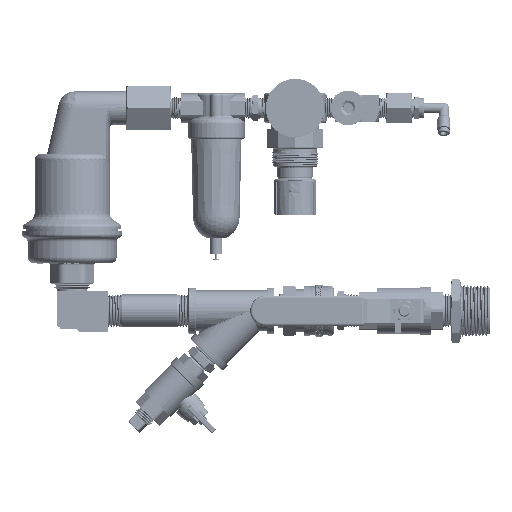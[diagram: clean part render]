
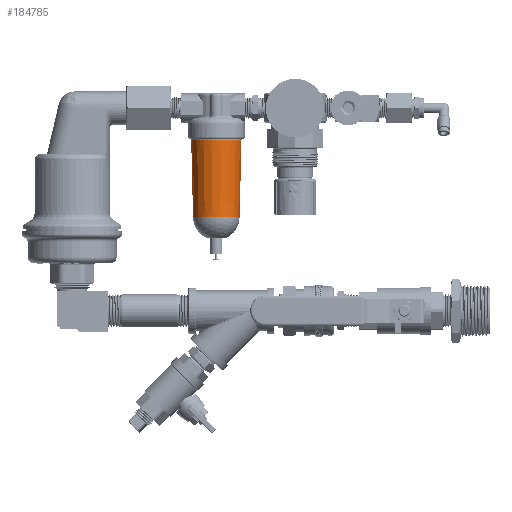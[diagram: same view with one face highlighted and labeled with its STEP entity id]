
A CAD part, top view. The second image highlights one B-rep face of the part: STEP entity #184785.
In plain terms, the highlighted conical face has half-angle 1.387 degrees and reference radius 16.32 mm.
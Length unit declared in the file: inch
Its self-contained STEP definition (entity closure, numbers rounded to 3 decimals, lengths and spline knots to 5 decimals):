
#21802=FACE_OUTER_BOUND('',#33109,.T.);
#33109=EDGE_LOOP('',(#132966,#132967,#132968,#132969,#132970));
#42530=CIRCLE('',#198870,0.59483);
#42534=CIRCLE('',#198878,0.6425);
#42536=CIRCLE('',#198881,0.59483);
#50109=LINE('',#331773,#64939);
#50110=LINE('',#331777,#64940);
#64939=VECTOR('',#230792,39.37008);
#64940=VECTOR('',#230795,39.37008);
#80038=VERTEX_POINT('',#331764);
#80040=VERTEX_POINT('',#331768);
#80041=VERTEX_POINT('',#331772);
#80042=VERTEX_POINT('',#331774);
#80043=VERTEX_POINT('',#331776);
#98450=EDGE_CURVE('',#80038,#80040,#42530,.T.);
#98451=EDGE_CURVE('',#80040,#80041,#50109,.T.);
#98453=EDGE_CURVE('',#80042,#80043,#50110,.T.);
#98460=EDGE_CURVE('',#80043,#80041,#42534,.T.);
#98462=EDGE_CURVE('',#80042,#80038,#42536,.T.);
#132966=ORIENTED_EDGE('',*,*,#98462,.T.);
#132967=ORIENTED_EDGE('',*,*,#98450,.T.);
#132968=ORIENTED_EDGE('',*,*,#98451,.T.);
#132969=ORIENTED_EDGE('',*,*,#98460,.F.);
#132970=ORIENTED_EDGE('',*,*,#98453,.F.);
#169931=CONICAL_SURFACE('',#198880,0.6425,0.024);
#184785=ADVANCED_FACE('',(#21802),#169931,.T.);
#198870=AXIS2_PLACEMENT_3D('',#331770,#230788,#230789);
#198878=AXIS2_PLACEMENT_3D('',#331789,#230810,#230811);
#198880=AXIS2_PLACEMENT_3D('',#331791,#230814,#230815);
#198881=AXIS2_PLACEMENT_3D('',#331792,#230816,#230817);
#230788=DIRECTION('center_axis',(0.,1.,0.));
#230789=DIRECTION('ref_axis',(-1.,0.,0.));
#230792=DIRECTION('',(0.024,1.,0.));
#230795=DIRECTION('',(-0.024,1.,0.));
#230810=DIRECTION('center_axis',(0.,1.,0.));
#230811=DIRECTION('ref_axis',(-1.,0.,0.));
#230814=DIRECTION('center_axis',(0.,1.,0.));
#230815=DIRECTION('ref_axis',(-1.,0.,0.));
#230816=DIRECTION('center_axis',(0.,1.,0.));
#230817=DIRECTION('ref_axis',(-1.,0.,0.));
#331764=CARTESIAN_POINT('',(4.37351,2.8851,1.09483));
#331768=CARTESIAN_POINT('',(4.96834,2.8851,0.5));
#331770=CARTESIAN_POINT('Origin',(4.37351,2.8851,0.5));
#331772=CARTESIAN_POINT('',(5.01601,4.85391,0.5));
#331773=CARTESIAN_POINT('',(5.01601,4.85391,0.5));
#331774=CARTESIAN_POINT('',(3.77869,2.8851,0.5));
#331776=CARTESIAN_POINT('',(3.73101,4.85391,0.5));
#331777=CARTESIAN_POINT('',(3.73101,4.85391,0.5));
#331789=CARTESIAN_POINT('Origin',(4.37351,4.85391,0.5));
#331791=CARTESIAN_POINT('Origin',(4.37351,4.85391,0.5));
#331792=CARTESIAN_POINT('Origin',(4.37351,2.8851,0.5));
